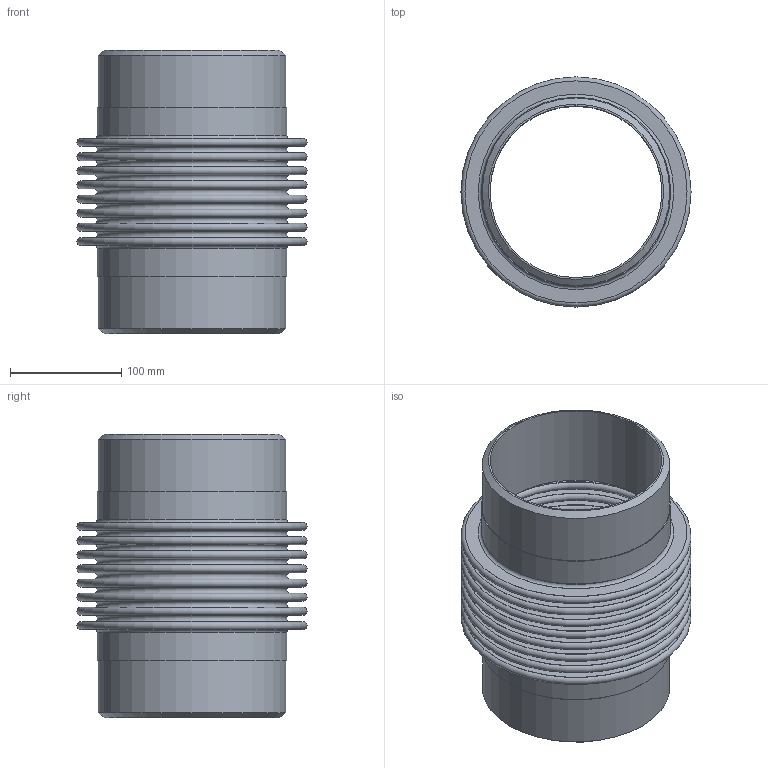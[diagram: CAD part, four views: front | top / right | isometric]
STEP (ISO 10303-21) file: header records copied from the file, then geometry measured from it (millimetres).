
FILE_DESCRIPTION(/* description */ (''),/* implementation_level */ '2;1');
FILE_NAME(/* name */ 'PIPE- 6- 85 PSIG.stp',/* time_stamp */ '2026-07-23T09:27:37-05:00',/* author */ ('jorgef'),/* organization */ (''),/* preprocessor_version */ 'ST-DEVELOPER v20.1',/* originating_system */ 'Autodesk Inventor 2026',/* authorisation */ '');
FILE_SCHEMA (('AUTOMOTIVE_DESIGN { 1 0 10303 214 3 1 1 }'));
Length unit declared in the file: inch
Products named in the file (1): PIPE- 6 - 85 PSIG ASSEMBLY PART
Bounding box: 206.38 x 206.38 x 254 mm (x, y, z)
Volume: 714441.2 mm3; surface area: 579424.8 mm2
Topology: 1 solids, 1 shells, 80 faces, 126 edges, 84 vertices
Faces by surface type: plane 38, torus 34, cylinder 6, cone 2
Full cylindrical faces by diameter (mm): 154.051 x2, 168.275 x2, 169.799 x2
Entity records: 2035 total; most frequent: DIRECTION 406, CARTESIAN_POINT 291, ORIENTED_EDGE 252, AXIS2_PLACEMENT_3D 199, EDGE_CURVE 126, EDGE_LOOP 118, CIRCLE 118, VERTEX_POINT 84
